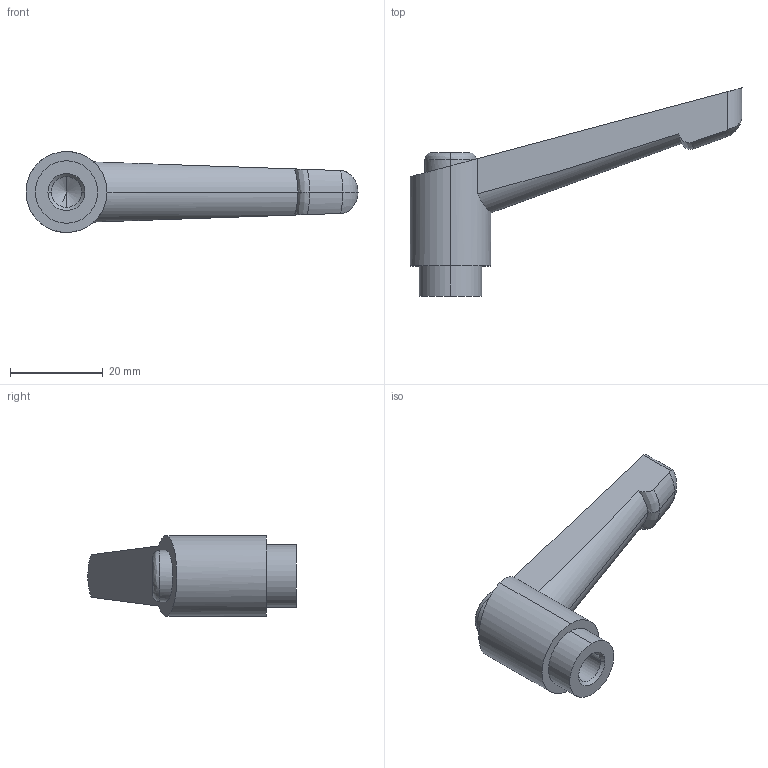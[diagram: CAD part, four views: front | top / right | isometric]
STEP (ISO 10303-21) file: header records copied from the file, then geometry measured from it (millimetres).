
FILE_DESCRIPTION (( 'STEP AP214' ), '1' );
FILE_NAME ('2.9009 Kiinnitysvipu M8 AL sisäkierteellä.STEP', '2025-09-10T08:09:31', ( '' ), ( '' ), 'SwSTEP 2.0', 'SolidWorks 2025', '' );
FILE_SCHEMA (( 'AUTOMOTIVE_DESIGN' ));
Length unit declared in the file: millimetre
Products named in the file (1): 2.9009 Kiinnitysvipu M8 AL sisäkierteellä
Bounding box: 71.75 x 45 x 17.5 mm (x, y, z)
Volume: 11602.5 mm3; surface area: 4416.7 mm2
Topology: 1 solids, 1 shells, 57 faces, 147 edges, 92 vertices
Faces by surface type: cylinder 31, cone 14, plane 6, bspline 4, torus 2
Entity records: 2423 total; most frequent: CARTESIAN_POINT 772, ORIENTED_EDGE 286, DIRECTION 216, EDGE_CURVE 143, VERTEX_POINT 92, AXIS2_PLACEMENT_3D 88, EDGE_LOOP 61, B_SPLINE_CURVE_WITH_KNOTS 57
